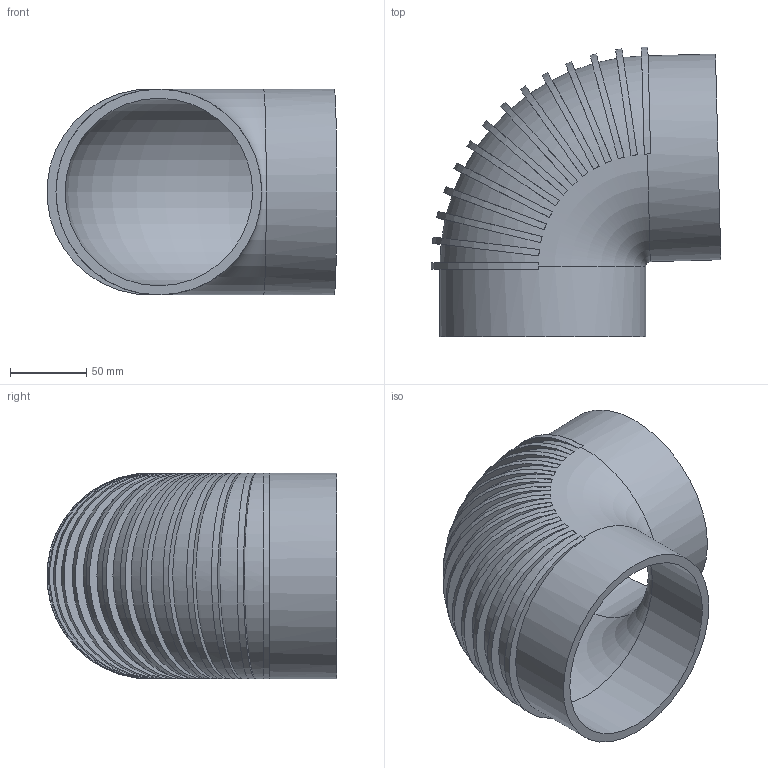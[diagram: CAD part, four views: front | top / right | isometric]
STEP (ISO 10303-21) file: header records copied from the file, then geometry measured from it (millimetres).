
FILE_DESCRIPTION(/* description */ (''),/* implementation_level */ '2;1');
FILE_NAME(/* name */ 'Z:\Geberit\Export\NewStep\Bogen_Ipart\stp\312880.stp',/* time_stamp */ '2014-04-03T16:43:34+02:00',/* author */ ('Marco'),/* organization */ (''),/* preprocessor_version */ 'ST-DEVELOPER v15.2',/* originating_system */ 'Autodesk Inventor 2014',/* authorisation */ '');
FILE_SCHEMA (('AUTOMOTIVE_DESIGN { 1 0 10303 214 3 1 1 }'));
Length unit declared in the file: millimetre
Products named in the file (1): 312880
Bounding box: 189.98 x 190.08 x 135 mm (x, y, z)
Volume: 537725.9 mm3; surface area: 191643.3 mm2
Topology: 1 solids, 1 shells, 50 faces, 144 edges, 96 vertices
Faces by surface type: plane 30, cylinder 18, torus 2
Full cylindrical faces by diameter (mm): 123 x2, 135 x2
Entity records: 3251 total; most frequent: CARTESIAN_POINT 2081, ORIENTED_EDGE 244, DIRECTION 182, EDGE_CURVE 122, VERTEX_POINT 92, AXIS2_PLACEMENT_3D 89, B_SPLINE_CURVE_WITH_KNOTS 80, EDGE_LOOP 70
